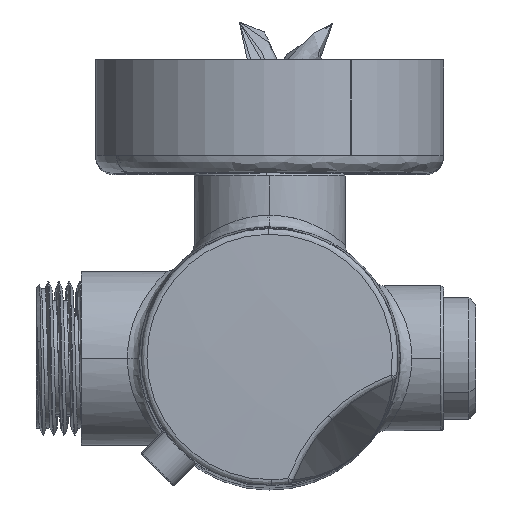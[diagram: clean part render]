
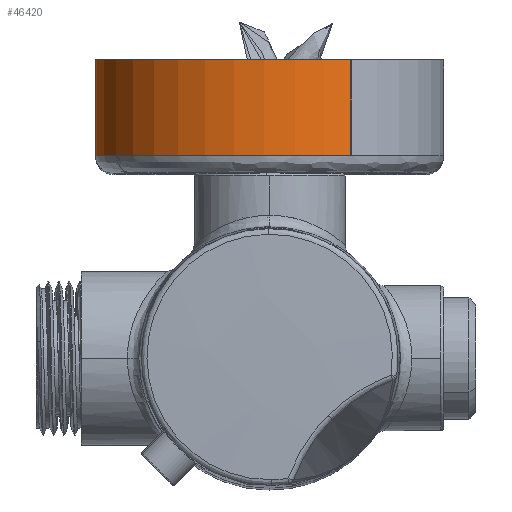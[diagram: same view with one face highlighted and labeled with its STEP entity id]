
A CAD part, top view. The second image highlights one B-rep face of the part: STEP entity #46420.
In plain terms, the highlighted cylindrical face has radius 30 mm (diameter 60 mm), a partial arc.
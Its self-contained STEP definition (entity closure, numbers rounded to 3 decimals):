
#1442 = VECTOR ( 'NONE', #28792, 1000. ) ;
#2577 = VECTOR ( 'NONE', #8098, 1000. ) ;
#2623 = CIRCLE ( 'NONE', #4749, 30. ) ;
#3359 = LINE ( 'NONE', #17927, #2577 ) ;
#3532 = ORIENTED_EDGE ( 'NONE', *, *, #15702, .F. ) ;
#3742 = CARTESIAN_POINT ( 'NONE',  ( -17.226, 38., -45. ) ) ;
#4224 = AXIS2_PLACEMENT_3D ( 'NONE', #34153, #45660, #54778 ) ;
#4749 = AXIS2_PLACEMENT_3D ( 'NONE', #18889, #44943, #50019 ) ;
#8098 = DIRECTION ( 'NONE',  ( -1., 0., 0. ) ) ;
#9412 = VERTEX_POINT ( 'NONE', #10920 ) ;
#9974 = FACE_OUTER_BOUND ( 'NONE', #14532, .T. ) ;
#10920 = CARTESIAN_POINT ( 'NONE',  ( -20.226, 38., -45. ) ) ;
#12984 = CARTESIAN_POINT ( 'NONE',  ( -20.226, 38., -105. ) ) ;
#14173 = ORIENTED_EDGE ( 'NONE', *, *, #34279, .F. ) ;
#14532 = EDGE_LOOP ( 'NONE', ( #65780, #16685, #59502, #3532, #14173 ) ) ;
#15702 = EDGE_CURVE ( 'NONE', #58679, #16190, #3359, .T. ) ;
#16190 = VERTEX_POINT ( 'NONE', #39466 ) ;
#16685 = ORIENTED_EDGE ( 'NONE', *, *, #33822, .T. ) ;
#17167 = CIRCLE ( 'NONE', #4224, 30. ) ;
#17927 = CARTESIAN_POINT ( 'NONE',  ( -17.226, 38., -105. ) ) ;
#18504 = DIRECTION ( 'NONE',  ( 0., 1., 0. ) ) ;
#18889 = CARTESIAN_POINT ( 'NONE',  ( -20.226, 38., -75. ) ) ;
#23579 = DIRECTION ( 'NONE',  ( 1., 0., 0. ) ) ;
#25553 = CARTESIAN_POINT ( 'NONE',  ( -36.726, 38., -45. ) ) ;
#25853 = CYLINDRICAL_SURFACE ( 'NONE', #65815, 30. ) ;
#27382 = AXIS2_PLACEMENT_3D ( 'NONE', #49956, #23579, #18504 ) ;
#28792 = DIRECTION ( 'NONE',  ( -1., 0., 0. ) ) ;
#33822 = EDGE_CURVE ( 'NONE', #9412, #40058, #59890, .T. ) ;
#34153 = CARTESIAN_POINT ( 'NONE',  ( -36.726, 38., -75. ) ) ;
#34279 = EDGE_CURVE ( 'NONE', #59204, #58679, #2623, .T. ) ;
#39466 = CARTESIAN_POINT ( 'NONE',  ( -36.726, 38., -105. ) ) ;
#40058 = VERTEX_POINT ( 'NONE', #25553 ) ;
#41404 = CARTESIAN_POINT ( 'NONE',  ( -17.226, 38., -75. ) ) ;
#44365 = EDGE_CURVE ( 'NONE', #16190, #40058, #17167, .T. ) ;
#44943 = DIRECTION ( 'NONE',  ( 1., 0., 0. ) ) ;
#45660 = DIRECTION ( 'NONE',  ( -1., 0., 0. ) ) ;
#46420 = ADVANCED_FACE ( 'NONE', ( #9974 ), #25853, .T. ) ;
#49956 = CARTESIAN_POINT ( 'NONE',  ( -20.226, 38., -75. ) ) ;
#50019 = DIRECTION ( 'NONE',  ( 0., 1., 0. ) ) ;
#54266 = CARTESIAN_POINT ( 'NONE',  ( -20.226, 8., -75. ) ) ;
#54778 = DIRECTION ( 'NONE',  ( 0., 0., -1. ) ) ;
#56542 = CIRCLE ( 'NONE', #27382, 30. ) ;
#58679 = VERTEX_POINT ( 'NONE', #12984 ) ;
#59204 = VERTEX_POINT ( 'NONE', #54266 ) ;
#59502 = ORIENTED_EDGE ( 'NONE', *, *, #44365, .F. ) ;
#59890 = LINE ( 'NONE', #3742, #1442 ) ;
#61367 = DIRECTION ( 'NONE',  ( -1., 0., 0. ) ) ;
#62021 = DIRECTION ( 'NONE',  ( 0., 0., -1. ) ) ;
#62519 = EDGE_CURVE ( 'NONE', #9412, #59204, #56542, .T. ) ;
#65780 = ORIENTED_EDGE ( 'NONE', *, *, #62519, .F. ) ;
#65815 = AXIS2_PLACEMENT_3D ( 'NONE', #41404, #61367, #62021 ) ;
